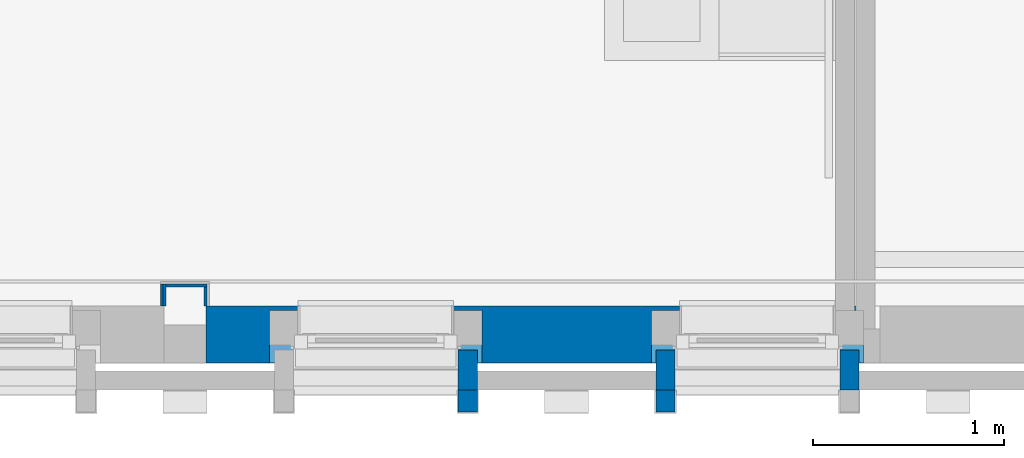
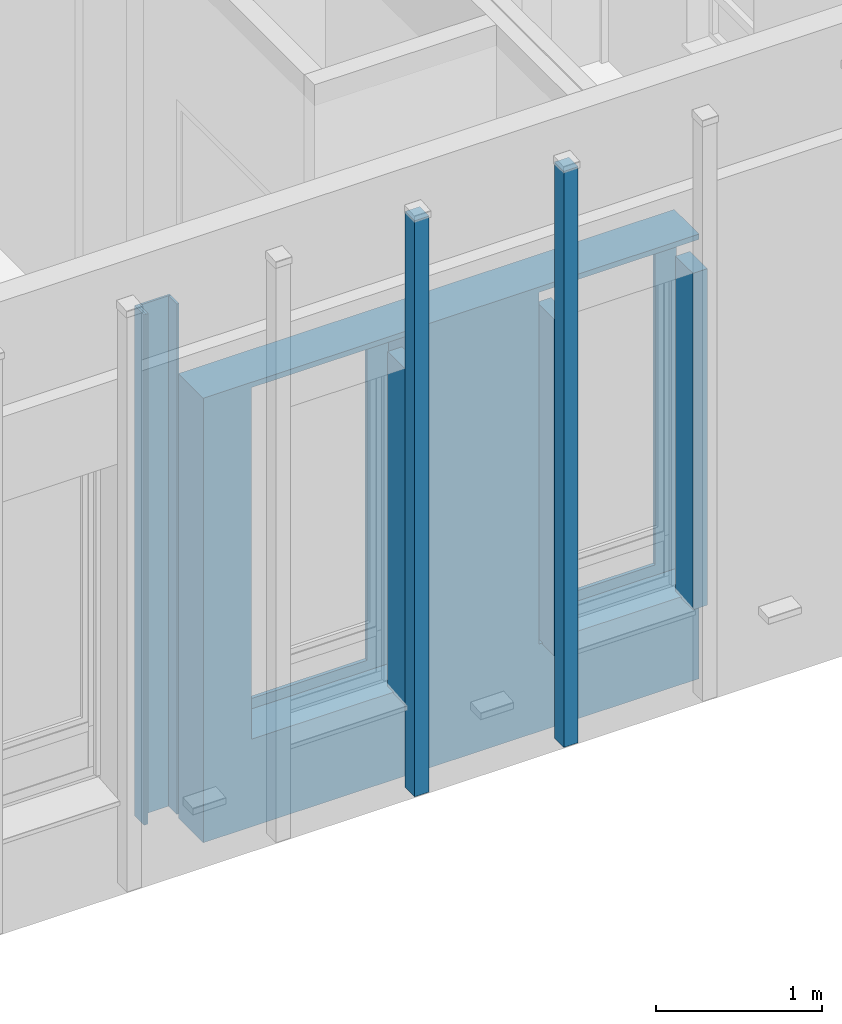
# One storey, part 39 of 118: 10 walls, 12 openings.
"""IFC2X3 building model written with IfcOpenShell, lengths in millimetres."""

from ifc_helpers import new_model, entity, si_unit, converted_unit, derived_unit, direction, frame, frame_2d, origin, place, context, subcontext, project, spatial, rectangle, extrude, faceted_brep, material, layer, layer_set, layer_usage, type_object, element, save


model = new_model("IFC2X3")

# Units and contexts
model_context = context("Model", 3, precision=0.01, world=origin(), true_north=direction((6.123031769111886e-17, 1.0)))
plan_context = context("Plan", 3, precision=0.01, world=origin(), true_north=direction((6.123031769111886e-17, 1.0)))
body_context = subcontext(model_context, "Body", "Model", "MODEL_VIEW")
ifc_project = project(units=[si_unit("LENGTHUNIT", "METRE", prefix="MILLI"), si_unit("AREAUNIT", "SQUARE_METRE"), si_unit("VOLUMEUNIT", "CUBIC_METRE"), converted_unit("PLANEANGLEUNIT", "DEGREE", entity("IfcRatioMeasure", 0.017453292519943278), si_unit("PLANEANGLEUNIT", "RADIAN"), dimensions=[0, 0, 0, 0, 0, 0, 0]), si_unit("MASSUNIT", "GRAM", prefix="KILO"), derived_unit("MASSDENSITYUNIT", [(si_unit("MASSUNIT", "GRAM", prefix="KILO"), 1), (si_unit("LENGTHUNIT", "METRE"), -3)]), derived_unit("IONCONCENTRATIONUNIT", [(si_unit("MASSUNIT", "GRAM", prefix="KILO"), 1), (si_unit("LENGTHUNIT", "METRE"), -3)]), derived_unit("MOMENTOFINERTIAUNIT", [(si_unit("LENGTHUNIT", "METRE"), 4)]), si_unit("TIMEUNIT", "SECOND"), si_unit("FREQUENCYUNIT", "HERTZ"), si_unit("THERMODYNAMICTEMPERATUREUNIT", "DEGREE_CELSIUS"), derived_unit("THERMALTRANSMITTANCEUNIT", [(si_unit("MASSUNIT", "GRAM", prefix="KILO"), 1), (si_unit("THERMODYNAMICTEMPERATUREUNIT", "KELVIN"), -1), (si_unit("TIMEUNIT", "SECOND"), -3)]), derived_unit("THERMALCONDUCTANCEUNIT", [(si_unit("MASSUNIT", "GRAM", prefix="KILO"), 1), (si_unit("THERMODYNAMICTEMPERATUREUNIT", "KELVIN"), -1), (si_unit("TIMEUNIT", "SECOND"), -3), (si_unit("LENGTHUNIT", "METRE"), 1)]), derived_unit("VOLUMETRICFLOWRATEUNIT", [(si_unit("LENGTHUNIT", "METRE"), 3), (si_unit("TIMEUNIT", "SECOND"), -1)]), derived_unit("MASSFLOWRATEUNIT", [(si_unit("MASSUNIT", "GRAM", prefix="KILO"), 1), (si_unit("TIMEUNIT", "SECOND"), -1)]), derived_unit("ROTATIONALFREQUENCYUNIT", [(si_unit("TIMEUNIT", "SECOND"), -1)]), si_unit("ELECTRICCURRENTUNIT", "AMPERE"), si_unit("ELECTRICVOLTAGEUNIT", "VOLT"), si_unit("POWERUNIT", "WATT"), si_unit("FORCEUNIT", "NEWTON", prefix="KILO"), si_unit("ILLUMINANCEUNIT", "LUX"), si_unit("LUMINOUSFLUXUNIT", "LUMEN"), si_unit("LUMINOUSINTENSITYUNIT", "CANDELA"), derived_unit("USERDEFINED", [(si_unit("MASSUNIT", "GRAM", prefix="KILO"), -1), (si_unit("LENGTHUNIT", "METRE"), -2), (si_unit("TIMEUNIT", "SECOND"), 3), (si_unit("LUMINOUSFLUXUNIT", "LUMEN"), 1)]), derived_unit("USERDEFINED", [(si_unit("MASSUNIT", "GRAM", prefix="KILO"), 1), (si_unit("TIMEUNIT", "SECOND"), -3), (si_unit("LENGTHUNIT", "METRE"), 3), (si_unit("ELECTRICCURRENTUNIT", "AMPERE"), -2)]), derived_unit("SOUNDPOWERUNIT", [(si_unit("MASSUNIT", "GRAM", prefix="KILO"), 1), (si_unit("TIMEUNIT", "SECOND"), -3), (si_unit("LENGTHUNIT", "METRE"), 2)]), derived_unit("SOUNDPRESSUREUNIT", [(si_unit("MASSUNIT", "GRAM", prefix="KILO"), 1), (si_unit("LENGTHUNIT", "METRE"), -1), (si_unit("TIMEUNIT", "SECOND"), -2)]), derived_unit("LINEARVELOCITYUNIT", [(si_unit("LENGTHUNIT", "METRE"), 1), (si_unit("TIMEUNIT", "SECOND"), -1)]), si_unit("PRESSUREUNIT", "PASCAL"), derived_unit("USERDEFINED", [(si_unit("MASSUNIT", "GRAM", prefix="KILO"), 1), (si_unit("LENGTHUNIT", "METRE"), -2), (si_unit("TIMEUNIT", "SECOND"), -2)]), derived_unit("LINEARFORCEUNIT", [(si_unit("MASSUNIT", "GRAM", prefix="KILO"), 1), (si_unit("TIMEUNIT", "SECOND"), -2)]), derived_unit("PLANARFORCEUNIT", [(si_unit("MASSUNIT", "GRAM", prefix="KILO"), 1), (si_unit("LENGTHUNIT", "METRE"), -1), (si_unit("TIMEUNIT", "SECOND"), -2)]), derived_unit("SPECIFICHEATCAPACITYUNIT", [(si_unit("THERMODYNAMICTEMPERATUREUNIT", "KELVIN"), -1), (si_unit("LENGTHUNIT", "METRE"), 2), (si_unit("TIMEUNIT", "SECOND"), -2)]), derived_unit("HEATINGVALUEUNIT", [(si_unit("LENGTHUNIT", "METRE"), 2), (si_unit("TIMEUNIT", "SECOND"), -2)]), derived_unit("VAPORPERMEABILITYUNIT", [(si_unit("LENGTHUNIT", "METRE"), -1), (si_unit("TIMEUNIT", "SECOND"), 1)]), derived_unit("DYNAMICVISCOSITYUNIT", [(si_unit("MASSUNIT", "GRAM", prefix="KILO"), 1), (si_unit("TIMEUNIT", "SECOND"), -1), (si_unit("LENGTHUNIT", "METRE"), -1)]), derived_unit("THERMALEXPANSIONCOEFFICIENTUNIT", [(si_unit("THERMODYNAMICTEMPERATUREUNIT", "KELVIN"), -1)]), derived_unit("MODULUSOFELASTICITYUNIT", [(si_unit("MASSUNIT", "GRAM", prefix="KILO"), 1), (si_unit("LENGTHUNIT", "METRE"), -1), (si_unit("TIMEUNIT", "SECOND"), -2)]), derived_unit("ISOTHERMALMOISTURECAPACITYUNIT", [(si_unit("LENGTHUNIT", "METRE"), 3), (si_unit("MASSUNIT", "GRAM", prefix="KILO"), -1)]), derived_unit("MOISTUREDIFFUSIVITYUNIT", [(si_unit("TIMEUNIT", "SECOND"), -1), (si_unit("LENGTHUNIT", "METRE"), 2)])], contexts=[model_context, plan_context])

# Site, building, storey
site_placement = place(None, origin())
site = spatial("IfcSite", under=ifc_project, at=site_placement, Name="Locatie", CompositionType="ELEMENT")
building_placement = place(site_placement, origin())
building = spatial("IfcBuilding", under=site, at=building_placement, Name="Bouwwerk", CompositionType="ELEMENT")
storey_placement = place(building_placement, frame((0.0, 0.0, 7800.0)))
storey = spatial("IfcBuildingStorey", under=building, at=storey_placement, Name="02 tweede verdieping", CompositionType="ELEMENT", Elevation=7800.000000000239)

# Wall, openings
ifc_material_1 = material(Name="n7_isolatie_glaswol")
ifc_layer_1 = layer(ifc_material_1, 30.0)
ifc_layer_2 = layer(ifc_material_1, 245.0)
ifc_material_2 = material(Name="i4_multiplex")
ifc_layer_3 = layer(ifc_material_2, 12.0)
ifc_material_3 = material(Name="f7_gipsvezel")
ifc_layer_4 = layer(ifc_material_3, 13.000000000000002)
ifc_layer_set_1 = layer_set([ifc_layer_1, ifc_layer_2, ifc_layer_3, ifc_layer_4], Name="Basic Wall:NLRS_22_WA_HSB bispouw 30-245-12-13 glaswol_gen_ISR")
ifc_layer_usage_1 = layer_usage(ifc_layer_set_1, "AXIS2", "NEGATIVE", 150.0)
wall_type_1 = type_object("IfcWallType", Name="Basic Wall:NLRS_22_WA_HSB bispouw 30-245-12-13 glaswol_gen_ISR", PredefinedType="STANDARD", material=ifc_layer_set_1)
wall_1_placement = place(storey_placement, frame((31856.0, 9850.0, -30.0), z_axis=(0.0, 0.0, 1.0), x_axis=(-1.0, 0.0, 0.0)))
wall_1 = element("IfcWallStandardCase", 1, at=wall_1_placement, inside=storey, type_object=wall_type_1, material=ifc_layer_usage_1, Name="Basic Wall:NLRS_22_WA_HSB bispouw 30-245-12-13 glaswol_gen_ISR", ObjectType="Basic Wall:NLRS_22_WA_HSB bispouw 30-245-12-13 glaswol_gen_ISR", context=body_context, shape_type="SweptSolid", body=[
    extrude(rectangle(XDim=3445.999999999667, YDim=300.0000000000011, at=frame_2d((1722.9999999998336, 0.0), x_axis=(-1.0, 0.0))), origin(), (0.0, 0.0, 1.0), 3265.9999999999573),
])
opening_1_placement = place(wall_1_placement, frame((-888.0, 290.0, 633.0)))
element("IfcOpeningElement", 2, at=opening_1_placement, cuts=wall_1, Name="Basic Wall:NLRS_22_WA_HSB bispouw 30-245-12-13 glaswol_gen_ISR", ObjectType="Opening", context=body_context, shape_type="Brep", body=[
    faceted_brep([(-24.0, -100.0, 2472.0), (-103.0, -100.0, 2472.0), (-103.0, -100.0, 42.0), (-1009.0, -100.0, 42.0), (-1009.0, -100.0, 2472.0), (-1088.0, -100.0, 2472.0), (-1088.0, -100.0, 0.0), (-24.0, -100.0, 0.0), (-1088.0, 0.0, 2472.0), (-24.0, 0.0, 2472.0), (-24.0, 0.0, 0.0), (-1088.0, 0.0, 0.0), (-1112.0, -415.0, 2594.0), (-1112.0, -415.0, 11.0), (0.0, -415.0, 11.0), (0.0, -415.0, 2594.0), (-964.0, -415.0, 2443.0), (-148.0, -415.0, 2443.0), (-148.0, -415.0, 87.0), (-964.0, -415.0, 87.0), (-1112.0, -140.0, 2594.0), (0.0, -140.0, 2594.0), (0.0, -140.0, 11.0), (-1112.0, -140.0, 11.0), (-1009.0, -140.0, 42.0), (-103.0, -140.0, 42.0), (-103.0, -140.0, 2508.0), (-1009.0, -140.0, 2508.0), (-103.0, -100.0, 2508.0), (-1009.0, -100.0, 2508.0), (-964.0, -615.0, 2443.0), (-964.0, -615.0, 87.0), (-148.0, -615.0, 87.0), (-148.0, -615.0, 2443.0)], [[[0, 1, 2, 3, 4, 5, 6, 7]], [[8, 9, 10, 11]], [[5, 8, 11, 6]], [[6, 11, 10, 7]], [[7, 10, 9, 0]], [[8, 5, 4, 1, 0, 9]], [[12, 13, 14, 15], [16, 17, 18, 19]], [[20, 21, 22, 23], [24, 25, 26, 27]], [[12, 20, 23, 13]], [[13, 23, 22, 14]], [[14, 22, 21, 15]], [[15, 21, 20, 12]], [[28, 1, 4, 29]], [[24, 27, 29, 4, 3]], [[3, 2, 25, 24]], [[2, 1, 28, 26, 25]], [[29, 27, 26, 28]], [[30, 31, 32, 33]], [[30, 16, 19, 31]], [[31, 19, 18, 32]], [[32, 18, 17, 33]], [[33, 17, 16, 30]]]),
])
opening_2_placement = place(wall_1_placement, frame((5112.0, 290.0, 633.0)))
element("IfcOpeningElement", 3, at=opening_2_placement, cuts=wall_1, Name="Basic Wall:NLRS_22_WA_HSB bispouw 30-245-12-13 glaswol_gen_ISR", ObjectType="Opening", context=body_context, shape_type="Brep", body=[
    faceted_brep([(-24.0, -100.0, 2472.0), (-103.0, -100.0, 2472.0), (-103.0, -100.0, 42.0), (-1009.0, -100.0, 42.0), (-1009.0, -100.0, 2472.0), (-1088.0, -100.0, 2472.0), (-1088.0, -100.0, 0.0), (-24.0, -100.0, 0.0), (-1088.0, 0.0, 2472.0), (-24.0, 0.0, 2472.0), (-24.0, 0.0, 0.0), (-1088.0, 0.0, 0.0), (-1112.0, -415.0, 2594.0), (-1112.0, -415.0, 11.0), (0.0, -415.0, 11.0), (0.0, -415.0, 2594.0), (-964.0, -415.0, 2443.0), (-148.0, -415.0, 2443.0), (-148.0, -415.0, 87.0), (-964.0, -415.0, 87.0), (-1112.0, -140.0, 2594.0), (0.0, -140.0, 2594.0), (0.0, -140.0, 11.0), (-1112.0, -140.0, 11.0), (-1009.0, -140.0, 42.0), (-103.0, -140.0, 42.0), (-103.0, -140.0, 2508.0), (-1009.0, -140.0, 2508.0), (-103.0, -100.0, 2508.0), (-1009.0, -100.0, 2508.0), (-964.0, -615.0, 2443.0), (-964.0, -615.0, 87.0), (-148.0, -615.0, 87.0), (-148.0, -615.0, 2443.0)], [[[0, 1, 2, 3, 4, 5, 6, 7]], [[8, 9, 10, 11]], [[5, 8, 11, 6]], [[6, 11, 10, 7]], [[7, 10, 9, 0]], [[8, 5, 4, 1, 0, 9]], [[12, 13, 14, 15], [16, 17, 18, 19]], [[20, 21, 22, 23], [24, 25, 26, 27]], [[12, 20, 23, 13]], [[13, 23, 22, 14]], [[14, 22, 21, 15]], [[15, 21, 20, 12]], [[28, 1, 4, 29]], [[24, 27, 29, 4, 3]], [[3, 2, 25, 24]], [[2, 1, 28, 26, 25]], [[29, 27, 26, 28]], [[30, 31, 32, 33]], [[30, 16, 19, 31]], [[31, 19, 18, 32]], [[32, 18, 17, 33]], [[33, 17, 16, 30]]]),
])
opening_3_placement = place(wall_1_placement, frame((7112.0, 290.0, 633.0)))
element("IfcOpeningElement", 4, at=opening_3_placement, cuts=wall_1, Name="Basic Wall:NLRS_22_WA_HSB bispouw 30-245-12-13 glaswol_gen_ISR", ObjectType="Opening", context=body_context, shape_type="Brep", body=[
    faceted_brep([(-24.0, -100.0, 2472.0), (-103.0, -100.0, 2472.0), (-103.0, -100.0, 42.0), (-1009.0, -100.0, 42.0), (-1009.0, -100.0, 2472.0), (-1088.0, -100.0, 2472.0), (-1088.0, -100.0, 0.0), (-24.0, -100.0, 0.0), (-1088.0, 0.0, 2472.0), (-24.0, 0.0, 2472.0), (-24.0, 0.0, 0.0), (-1088.0, 0.0, 0.0), (-1112.0, -415.0, 2594.0), (-1112.0, -415.0, 11.0), (0.0, -415.0, 11.0), (0.0, -415.0, 2594.0), (-964.0, -415.0, 2443.0), (-148.0, -415.0, 2443.0), (-148.0, -415.0, 87.0), (-964.0, -415.0, 87.0), (-1112.0, -140.0, 2594.0), (0.0, -140.0, 2594.0), (0.0, -140.0, 11.0), (-1112.0, -140.0, 11.0), (-1009.0, -140.0, 42.0), (-103.0, -140.0, 42.0), (-103.0, -140.0, 2508.0), (-1009.0, -140.0, 2508.0), (-103.0, -100.0, 2508.0), (-1009.0, -100.0, 2508.0), (-964.0, -615.0, 2443.0), (-964.0, -615.0, 87.0), (-148.0, -615.0, 87.0), (-148.0, -615.0, 2443.0)], [[[0, 1, 2, 3, 4, 5, 6, 7]], [[8, 9, 10, 11]], [[5, 8, 11, 6]], [[6, 11, 10, 7]], [[7, 10, 9, 0]], [[8, 5, 4, 1, 0, 9]], [[12, 13, 14, 15], [16, 17, 18, 19]], [[20, 21, 22, 23], [24, 25, 26, 27]], [[12, 20, 23, 13]], [[13, 23, 22, 14]], [[14, 22, 21, 15]], [[15, 21, 20, 12]], [[28, 1, 4, 29]], [[24, 27, 29, 4, 3]], [[3, 2, 25, 24]], [[2, 1, 28, 26, 25]], [[29, 27, 26, 28]], [[30, 31, 32, 33]], [[30, 16, 19, 31]], [[31, 19, 18, 32]], [[32, 18, 17, 33]], [[33, 17, 16, 30]]]),
])
opening_4_placement = place(wall_1_placement, frame((11112.0, 290.0, 633.0)))
element("IfcOpeningElement", 5, at=opening_4_placement, cuts=wall_1, Name="Basic Wall:NLRS_22_WA_HSB bispouw 30-245-12-13 glaswol_gen_ISR", ObjectType="Opening", context=body_context, shape_type="Brep", body=[
    faceted_brep([(-24.0, -100.0, 2472.0), (-103.0, -100.0, 2472.0), (-103.0, -100.0, 42.0), (-1009.0, -100.0, 42.0), (-1009.0, -100.0, 2472.0), (-1088.0, -100.0, 2472.0), (-1088.0, -100.0, 0.0), (-24.0, -100.0, 0.0), (-1088.0, 0.0, 2472.0), (-24.0, 0.0, 2472.0), (-24.0, 0.0, 0.0), (-1088.0, 0.0, 0.0), (-1112.0, -415.0, 2594.0), (-1112.0, -415.0, 11.0), (0.0, -415.0, 11.0), (0.0, -415.0, 2594.0), (-964.0, -415.0, 2443.0), (-148.0, -415.0, 2443.0), (-148.0, -415.0, 87.0), (-964.0, -415.0, 87.0), (-1112.0, -140.0, 2594.0), (0.0, -140.0, 2594.0), (0.0, -140.0, 11.0), (-1112.0, -140.0, 11.0), (-1009.0, -140.0, 42.0), (-103.0, -140.0, 42.0), (-103.0, -140.0, 2508.0), (-1009.0, -140.0, 2508.0), (-103.0, -100.0, 2508.0), (-1009.0, -100.0, 2508.0), (-964.0, -615.0, 2443.0), (-964.0, -615.0, 87.0), (-148.0, -615.0, 87.0), (-148.0, -615.0, 2443.0)], [[[0, 1, 2, 3, 4, 5, 6, 7]], [[8, 9, 10, 11]], [[5, 8, 11, 6]], [[6, 11, 10, 7]], [[7, 10, 9, 0]], [[8, 5, 4, 1, 0, 9]], [[12, 13, 14, 15], [16, 17, 18, 19]], [[20, 21, 22, 23], [24, 25, 26, 27]], [[12, 20, 23, 13]], [[13, 23, 22, 14]], [[14, 22, 21, 15]], [[15, 21, 20, 12]], [[28, 1, 4, 29]], [[24, 27, 29, 4, 3]], [[3, 2, 25, 24]], [[2, 1, 28, 26, 25]], [[29, 27, 26, 28]], [[30, 31, 32, 33]], [[30, 16, 19, 31]], [[31, 19, 18, 32]], [[32, 18, 17, 33]], [[33, 17, 16, 30]]]),
])
opening_5_placement = place(wall_1_placement, frame((13112.0, 290.0, 633.0)))
element("IfcOpeningElement", 6, at=opening_5_placement, cuts=wall_1, Name="Basic Wall:NLRS_22_WA_HSB bispouw 30-245-12-13 glaswol_gen_ISR", ObjectType="Opening", context=body_context, shape_type="Brep", body=[
    faceted_brep([(-24.0, -100.0, 2472.0), (-103.0, -100.0, 2472.0), (-103.0, -100.0, 42.0), (-1009.0, -100.0, 42.0), (-1009.0, -100.0, 2472.0), (-1088.0, -100.0, 2472.0), (-1088.0, -100.0, 0.0), (-24.0, -100.0, 0.0), (-1088.0, 0.0, 2472.0), (-24.0, 0.0, 2472.0), (-24.0, 0.0, 0.0), (-1088.0, 0.0, 0.0), (-1112.0, -415.0, 2594.0), (-1112.0, -415.0, 11.0), (0.0, -415.0, 11.0), (0.0, -415.0, 2594.0), (-964.0, -415.0, 2443.0), (-148.0, -415.0, 2443.0), (-148.0, -415.0, 87.0), (-964.0, -415.0, 87.0), (-1112.0, -140.0, 2594.0), (0.0, -140.0, 2594.0), (0.0, -140.0, 11.0), (-1112.0, -140.0, 11.0), (-1009.0, -140.0, 42.0), (-103.0, -140.0, 42.0), (-103.0, -140.0, 2508.0), (-1009.0, -140.0, 2508.0), (-103.0, -100.0, 2508.0), (-1009.0, -100.0, 2508.0), (-964.0, -615.0, 2443.0), (-964.0, -615.0, 87.0), (-148.0, -615.0, 87.0), (-148.0, -615.0, 2443.0)], [[[0, 1, 2, 3, 4, 5, 6, 7]], [[8, 9, 10, 11]], [[5, 8, 11, 6]], [[6, 11, 10, 7]], [[7, 10, 9, 0]], [[8, 5, 4, 1, 0, 9]], [[12, 13, 14, 15], [16, 17, 18, 19]], [[20, 21, 22, 23], [24, 25, 26, 27]], [[12, 20, 23, 13]], [[13, 23, 22, 14]], [[14, 22, 21, 15]], [[15, 21, 20, 12]], [[28, 1, 4, 29]], [[24, 27, 29, 4, 3]], [[3, 2, 25, 24]], [[2, 1, 28, 26, 25]], [[29, 27, 26, 28]], [[30, 31, 32, 33]], [[30, 16, 19, 31]], [[31, 19, 18, 32]], [[32, 18, 17, 33]], [[33, 17, 16, 30]]]),
])
opening_6_placement = place(wall_1_placement, frame((15112.0, 290.0, 633.0)))
element("IfcOpeningElement", 7, at=opening_6_placement, cuts=wall_1, Name="Basic Wall:NLRS_22_WA_HSB bispouw 30-245-12-13 glaswol_gen_ISR", ObjectType="Opening", context=body_context, shape_type="Brep", body=[
    faceted_brep([(-24.0, -100.0, 2472.0), (-103.0, -100.0, 2472.0), (-103.0, -100.0, 42.0), (-1009.0, -100.0, 42.0), (-1009.0, -100.0, 2472.0), (-1088.0, -100.0, 2472.0), (-1088.0, -100.0, 0.0), (-24.0, -100.0, 0.0), (-1088.0, 0.0, 2472.0), (-24.0, 0.0, 2472.0), (-24.0, 0.0, 0.0), (-1088.0, 0.0, 0.0), (-1112.0, -415.0, 2594.0), (-1112.0, -415.0, 11.0), (0.0, -415.0, 11.0), (0.0, -415.0, 2594.0), (-964.0, -415.0, 2443.0), (-148.0, -415.0, 2443.0), (-148.0, -415.0, 87.0), (-964.0, -415.0, 87.0), (-1112.0, -140.0, 2594.0), (0.0, -140.0, 2594.0), (0.0, -140.0, 11.0), (-1112.0, -140.0, 11.0), (-1009.0, -140.0, 42.0), (-103.0, -140.0, 42.0), (-103.0, -140.0, 2508.0), (-1009.0, -140.0, 2508.0), (-103.0, -100.0, 2508.0), (-1009.0, -100.0, 2508.0), (-964.0, -615.0, 2443.0), (-964.0, -615.0, 87.0), (-148.0, -615.0, 87.0), (-148.0, -615.0, 2443.0)], [[[0, 1, 2, 3, 4, 5, 6, 7]], [[8, 9, 10, 11]], [[5, 8, 11, 6]], [[6, 11, 10, 7]], [[7, 10, 9, 0]], [[8, 5, 4, 1, 0, 9]], [[12, 13, 14, 15], [16, 17, 18, 19]], [[20, 21, 22, 23], [24, 25, 26, 27]], [[12, 20, 23, 13]], [[13, 23, 22, 14]], [[14, 22, 21, 15]], [[15, 21, 20, 12]], [[28, 1, 4, 29]], [[24, 27, 29, 4, 3]], [[3, 2, 25, 24]], [[2, 1, 28, 26, 25]], [[29, 27, 26, 28]], [[30, 31, 32, 33]], [[30, 16, 19, 31]], [[31, 19, 18, 32]], [[32, 18, 17, 33]], [[33, 17, 16, 30]]]),
])
opening_7_placement = place(wall_1_placement, frame((17112.0, 290.0, 633.0)))
element("IfcOpeningElement", 8, at=opening_7_placement, cuts=wall_1, Name="Basic Wall:NLRS_22_WA_HSB bispouw 30-245-12-13 glaswol_gen_ISR", ObjectType="Opening", context=body_context, shape_type="Brep", body=[
    faceted_brep([(-24.0, -100.0, 2472.0), (-103.0, -100.0, 2472.0), (-103.0, -100.0, 42.0), (-1009.0, -100.0, 42.0), (-1009.0, -100.0, 2472.0), (-1088.0, -100.0, 2472.0), (-1088.0, -100.0, 0.0), (-24.0, -100.0, 0.0), (-1088.0, 0.0, 2472.0), (-24.0, 0.0, 2472.0), (-24.0, 0.0, 0.0), (-1088.0, 0.0, 0.0), (-1112.0, -415.0, 2594.0), (-1112.0, -415.0, 11.0), (0.0, -415.0, 11.0), (0.0, -415.0, 2594.0), (-964.0, -415.0, 2443.0), (-148.0, -415.0, 2443.0), (-148.0, -415.0, 87.0), (-964.0, -415.0, 87.0), (-1112.0, -140.0, 2594.0), (0.0, -140.0, 2594.0), (0.0, -140.0, 11.0), (-1112.0, -140.0, 11.0), (-1009.0, -140.0, 42.0), (-103.0, -140.0, 42.0), (-103.0, -140.0, 2508.0), (-1009.0, -140.0, 2508.0), (-103.0, -100.0, 2508.0), (-1009.0, -100.0, 2508.0), (-964.0, -615.0, 2443.0), (-964.0, -615.0, 87.0), (-148.0, -615.0, 87.0), (-148.0, -615.0, 2443.0)], [[[0, 1, 2, 3, 4, 5, 6, 7]], [[8, 9, 10, 11]], [[5, 8, 11, 6]], [[6, 11, 10, 7]], [[7, 10, 9, 0]], [[8, 5, 4, 1, 0, 9]], [[12, 13, 14, 15], [16, 17, 18, 19]], [[20, 21, 22, 23], [24, 25, 26, 27]], [[12, 20, 23, 13]], [[13, 23, 22, 14]], [[14, 22, 21, 15]], [[15, 21, 20, 12]], [[28, 1, 4, 29]], [[24, 27, 29, 4, 3]], [[3, 2, 25, 24]], [[2, 1, 28, 26, 25]], [[29, 27, 26, 28]], [[30, 31, 32, 33]], [[30, 16, 19, 31]], [[31, 19, 18, 32]], [[32, 18, 17, 33]], [[33, 17, 16, 30]]]),
])
opening_8_placement = place(wall_1_placement, frame((19112.0, 290.0, 633.0)))
element("IfcOpeningElement", 9, at=opening_8_placement, cuts=wall_1, Name="Basic Wall:NLRS_22_WA_HSB bispouw 30-245-12-13 glaswol_gen_ISR", ObjectType="Opening", context=body_context, shape_type="Brep", body=[
    faceted_brep([(-24.0, -100.0, 2472.0), (-103.0, -100.0, 2472.0), (-103.0, -100.0, 42.0), (-1009.0, -100.0, 42.0), (-1009.0, -100.0, 2472.0), (-1088.0, -100.0, 2472.0), (-1088.0, -100.0, 0.0), (-24.0, -100.0, 0.0), (-1088.0, 0.0, 2472.0), (-24.0, 0.0, 2472.0), (-24.0, 0.0, 0.0), (-1088.0, 0.0, 0.0), (-1112.0, -415.0, 2594.0), (-1112.0, -415.0, 11.0), (0.0, -415.0, 11.0), (0.0, -415.0, 2594.0), (-964.0, -415.0, 2443.0), (-148.0, -415.0, 2443.0), (-148.0, -415.0, 87.0), (-964.0, -415.0, 87.0), (-1112.0, -140.0, 2594.0), (0.0, -140.0, 2594.0), (0.0, -140.0, 11.0), (-1112.0, -140.0, 11.0), (-1009.0, -140.0, 42.0), (-103.0, -140.0, 42.0), (-103.0, -140.0, 2508.0), (-1009.0, -140.0, 2508.0), (-103.0, -100.0, 2508.0), (-1009.0, -100.0, 2508.0), (-964.0, -615.0, 2443.0), (-964.0, -615.0, 87.0), (-148.0, -615.0, 87.0), (-148.0, -615.0, 2443.0)], [[[0, 1, 2, 3, 4, 5, 6, 7]], [[8, 9, 10, 11]], [[5, 8, 11, 6]], [[6, 11, 10, 7]], [[7, 10, 9, 0]], [[8, 5, 4, 1, 0, 9]], [[12, 13, 14, 15], [16, 17, 18, 19]], [[20, 21, 22, 23], [24, 25, 26, 27]], [[12, 20, 23, 13]], [[13, 23, 22, 14]], [[14, 22, 21, 15]], [[15, 21, 20, 12]], [[28, 1, 4, 29]], [[24, 27, 29, 4, 3]], [[3, 2, 25, 24]], [[2, 1, 28, 26, 25]], [[29, 27, 26, 28]], [[30, 31, 32, 33]], [[30, 16, 19, 31]], [[31, 19, 18, 32]], [[32, 18, 17, 33]], [[33, 17, 16, 30]]]),
])
opening_9_placement = place(wall_1_placement, frame((21112.0, 290.0, 633.0)))
element("IfcOpeningElement", 10, at=opening_9_placement, cuts=wall_1, Name="Basic Wall:NLRS_22_WA_HSB bispouw 30-245-12-13 glaswol_gen_ISR", ObjectType="Opening", context=body_context, shape_type="Brep", body=[
    faceted_brep([(-24.0, -100.0, 2472.0), (-103.0, -100.0, 2472.0), (-103.0, -100.0, 42.0), (-1009.0, -100.0, 42.0), (-1009.0, -100.0, 2472.0), (-1088.0, -100.0, 2472.0), (-1088.0, -100.0, 0.0), (-24.0, -100.0, 0.0), (-1088.0, 0.0, 2472.0), (-24.0, 0.0, 2472.0), (-24.0, 0.0, 0.0), (-1088.0, 0.0, 0.0), (-1112.0, -415.0, 2594.0), (-1112.0, -415.0, 11.0), (0.0, -415.0, 11.0), (0.0, -415.0, 2594.0), (-964.0, -415.0, 2443.0), (-148.0, -415.0, 2443.0), (-148.0, -415.0, 87.0), (-964.0, -415.0, 87.0), (-1112.0, -140.0, 2594.0), (0.0, -140.0, 2594.0), (0.0, -140.0, 11.0), (-1112.0, -140.0, 11.0), (-1009.0, -140.0, 42.0), (-103.0, -140.0, 42.0), (-103.0, -140.0, 2508.0), (-1009.0, -140.0, 2508.0), (-103.0, -100.0, 2508.0), (-1009.0, -100.0, 2508.0), (-964.0, -615.0, 2443.0), (-964.0, -615.0, 87.0), (-148.0, -615.0, 87.0), (-148.0, -615.0, 2443.0)], [[[0, 1, 2, 3, 4, 5, 6, 7]], [[8, 9, 10, 11]], [[5, 8, 11, 6]], [[6, 11, 10, 7]], [[7, 10, 9, 0]], [[8, 5, 4, 1, 0, 9]], [[12, 13, 14, 15], [16, 17, 18, 19]], [[20, 21, 22, 23], [24, 25, 26, 27]], [[12, 20, 23, 13]], [[13, 23, 22, 14]], [[14, 22, 21, 15]], [[15, 21, 20, 12]], [[28, 1, 4, 29]], [[24, 27, 29, 4, 3]], [[3, 2, 25, 24]], [[2, 1, 28, 26, 25]], [[29, 27, 26, 28]], [[30, 31, 32, 33]], [[30, 16, 19, 31]], [[31, 19, 18, 32]], [[32, 18, 17, 33]], [[33, 17, 16, 30]]]),
])
opening_10_placement = place(wall_1_placement, frame((9112.0, 290.0, 633.0)))
element("IfcOpeningElement", 11, at=opening_10_placement, cuts=wall_1, Name="Basic Wall:NLRS_22_WA_HSB bispouw 30-245-12-13 glaswol_gen_ISR", ObjectType="Opening", context=body_context, shape_type="Brep", body=[
    faceted_brep([(-24.0, -100.0, 2472.0), (-103.0, -100.0, 2472.0), (-103.0, -100.0, 42.0), (-1009.0, -100.0, 42.0), (-1009.0, -100.0, 2472.0), (-1088.0, -100.0, 2472.0), (-1088.0, -100.0, 0.0), (-24.0, -100.0, 0.0), (-1088.0, 0.0, 2472.0), (-24.0, 0.0, 2472.0), (-24.0, 0.0, 0.0), (-1088.0, 0.0, 0.0), (-1112.0, -415.0, 2594.0), (-1112.0, -415.0, 11.0), (0.0, -415.0, 11.0), (0.0, -415.0, 2594.0), (-964.0, -415.0, 2443.0), (-148.0, -415.0, 2443.0), (-148.0, -415.0, 87.0), (-964.0, -415.0, 87.0), (-1112.0, -140.0, 2594.0), (0.0, -140.0, 2594.0), (0.0, -140.0, 11.0), (-1112.0, -140.0, 11.0), (-1009.0, -140.0, 42.0), (-103.0, -140.0, 42.0), (-103.0, -140.0, 2508.0), (-1009.0, -140.0, 2508.0), (-103.0, -100.0, 2508.0), (-1009.0, -100.0, 2508.0), (-964.0, -615.0, 2443.0), (-964.0, -615.0, 87.0), (-148.0, -615.0, 87.0), (-148.0, -615.0, 2443.0)], [[[0, 1, 2, 3, 4, 5, 6, 7]], [[8, 9, 10, 11]], [[5, 8, 11, 6]], [[6, 11, 10, 7]], [[7, 10, 9, 0]], [[8, 5, 4, 1, 0, 9]], [[12, 13, 14, 15], [16, 17, 18, 19]], [[20, 21, 22, 23], [24, 25, 26, 27]], [[12, 20, 23, 13]], [[13, 23, 22, 14]], [[14, 22, 21, 15]], [[15, 21, 20, 12]], [[28, 1, 4, 29]], [[24, 27, 29, 4, 3]], [[3, 2, 25, 24]], [[2, 1, 28, 26, 25]], [[29, 27, 26, 28]], [[30, 31, 32, 33]], [[30, 16, 19, 31]], [[31, 19, 18, 32]], [[32, 18, 17, 33]], [[33, 17, 16, 30]]]),
])
opening_11_placement = place(wall_1_placement, frame((1112.0, 290.0, 633.0), z_axis=(0.0, 0.0, 1.0), x_axis=(-1.0, 0.0, 0.0)))
element("IfcOpeningElement", 12, at=opening_11_placement, cuts=wall_1, Name="Basic Wall:NLRS_22_WA_HSB bispouw 30-245-12-13 glaswol_gen_ISR", ObjectType="Opening", context=body_context, shape_type="Brep", body=[
    faceted_brep([(24.0, 100.0, 2472.0), (103.0, 100.0, 2472.0), (103.0, 100.0, 42.0), (1009.0, 100.0, 42.0), (1009.0, 100.0, 2472.0), (1088.0, 100.0, 2472.0), (1088.0, 100.0, 0.0), (24.0, 100.0, 0.0), (1088.0, 0.0, 2472.0), (24.0, 0.0, 2472.0), (24.0, 0.0, 0.0), (1088.0, 0.0, 0.0), (1112.0, 415.0, 2594.0), (1112.0, 415.0, 11.0), (0.0, 415.0, 11.0), (0.0, 415.0, 2594.0), (964.0, 415.0, 2443.0), (148.0, 415.0, 2443.0), (148.0, 415.0, 87.0), (964.0, 415.0, 87.0), (1112.0, 140.0, 2594.0), (0.0, 140.0, 2594.0), (0.0, 140.0, 11.0), (1112.0, 140.0, 11.0), (1009.0, 140.0, 42.0), (103.0, 140.0, 42.0), (103.0, 140.0, 2508.0), (1009.0, 140.0, 2508.0), (103.0, 100.0, 2508.0), (1009.0, 100.0, 2508.0), (964.0, 615.0, 2443.0), (964.0, 615.0, 87.0), (148.0, 615.0, 87.0), (148.0, 615.0, 2443.0)], [[[0, 1, 2, 3, 4, 5, 6, 7]], [[8, 9, 10, 11]], [[5, 8, 11, 6]], [[6, 11, 10, 7]], [[7, 10, 9, 0]], [[8, 5, 4, 1, 0, 9]], [[12, 13, 14, 15], [16, 17, 18, 19]], [[20, 21, 22, 23], [24, 25, 26, 27]], [[12, 20, 23, 13]], [[13, 23, 22, 14]], [[14, 22, 21, 15]], [[15, 21, 20, 12]], [[28, 1, 4, 29]], [[24, 27, 29, 4, 3]], [[3, 2, 25, 24]], [[2, 1, 28, 26, 25]], [[29, 27, 26, 28]], [[30, 31, 32, 33]], [[30, 16, 19, 31]], [[31, 19, 18, 32]], [[32, 18, 17, 33]], [[33, 17, 16, 30]]]),
])
opening_12_placement = place(wall_1_placement, frame((3112.0, 290.0, 633.0), z_axis=(0.0, 0.0, 1.0), x_axis=(-1.0, 0.0, 0.0)))
element("IfcOpeningElement", 13, at=opening_12_placement, cuts=wall_1, Name="Basic Wall:NLRS_22_WA_HSB bispouw 30-245-12-13 glaswol_gen_ISR", ObjectType="Opening", context=body_context, shape_type="Brep", body=[
    faceted_brep([(24.0, 100.0, 2472.0), (103.0, 100.0, 2472.0), (103.0, 100.0, 42.0), (1009.0, 100.0, 42.0), (1009.0, 100.0, 2472.0), (1088.0, 100.0, 2472.0), (1088.0, 100.0, 0.0), (24.0, 100.0, 0.0), (1088.0, 0.0, 2472.0), (24.0, 0.0, 2472.0), (24.0, 0.0, 0.0), (1088.0, 0.0, 0.0), (1112.0, 415.0, 2594.0), (1112.0, 415.0, 11.0), (0.0, 415.0, 11.0), (0.0, 415.0, 2594.0), (964.0, 415.0, 2443.0), (148.0, 415.0, 2443.0), (148.0, 415.0, 87.0), (964.0, 415.0, 87.0), (1112.0, 140.0, 2594.0), (0.0, 140.0, 2594.0), (0.0, 140.0, 11.0), (1112.0, 140.0, 11.0), (1009.0, 140.0, 42.0), (103.0, 140.0, 42.0), (103.0, 140.0, 2508.0), (1009.0, 140.0, 2508.0), (103.0, 100.0, 2508.0), (1009.0, 100.0, 2508.0), (964.0, 615.0, 2443.0), (964.0, 615.0, 87.0), (148.0, 615.0, 87.0), (148.0, 615.0, 2443.0)], [[[0, 1, 2, 3, 4, 5, 6, 7]], [[8, 9, 10, 11]], [[5, 8, 11, 6]], [[6, 11, 10, 7]], [[7, 10, 9, 0]], [[8, 5, 4, 1, 0, 9]], [[12, 13, 14, 15], [16, 17, 18, 19]], [[20, 21, 22, 23], [24, 25, 26, 27]], [[12, 20, 23, 13]], [[13, 23, 22, 14]], [[14, 22, 21, 15]], [[15, 21, 20, 12]], [[28, 1, 4, 29]], [[24, 27, 29, 4, 3]], [[3, 2, 25, 24]], [[2, 1, 28, 26, 25]], [[29, 27, 26, 28]], [[30, 31, 32, 33]], [[30, 16, 19, 31]], [[31, 19, 18, 32]], [[32, 18, 17, 33]], [[33, 17, 16, 30]]]),
])

# Walls
ifc_material_4 = material(Name="g2_metselwerk_geel licht")
ifc_layer_5 = layer(ifc_material_4, 100.0)
ifc_layer_set_2 = layer_set([ifc_layer_5], Name="Basic Wall:21_WA_metselwerk_licht_100_gen_bdg")
ifc_layer_usage_2 = layer_usage(ifc_layer_set_2, "AXIS2", "NEGATIVE", 50.0)
wall_type_2 = type_object("IfcWallType", Name="Basic Wall:21_WA_metselwerk_licht_100_gen_bdg", PredefinedType="STANDARD", material=ifc_layer_set_2)
wall_2_placement = place(storey_placement, frame((30818.0, 9770.0, 603.0), z_axis=(0.0, 0.0, 1.0), x_axis=(0.0, -1.0, 0.0)))
element("IfcWallStandardCase", 14, at=wall_2_placement, inside=storey, type_object=wall_type_2, material=ifc_layer_usage_2, Name="Basic Wall:21_WA_metselwerk_licht_100_gen_bdg", ObjectType="Basic Wall:21_WA_metselwerk_licht_100_gen_bdg", context=body_context, shape_type="SweptSolid", body=[
    extrude(rectangle(XDim=210.00000000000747, YDim=100.00000000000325, at=frame_2d((105.00000000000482, -1.7053025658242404e-13), x_axis=(-1.0, 0.0))), origin(), (0.0, 0.0, 1.0), 2471.999999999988),
])
wall_3_placement = place(storey_placement, frame((30818.0, 9560.0, 0.0), z_axis=(0.0, 0.0, 1.0), x_axis=(0.0, -1.0, 0.0)))
element("IfcWallStandardCase", 15, at=wall_3_placement, inside=storey, type_object=wall_type_2, material=ifc_layer_usage_2, Name="Basic Wall:21_WA_metselwerk_licht_100_gen_bdg", ObjectType="Basic Wall:21_WA_metselwerk_licht_100_gen_bdg", context=body_context, shape_type="SweptSolid", body=[
    extrude(rectangle(XDim=115.00000000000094, YDim=100.00000000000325, at=frame_2d((57.50000000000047, 3.730349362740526e-13), x_axis=(-1.0, 0.0))), origin(), (0.0, 0.0, 1.0), 4232.000000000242),
])
ifc_layer_usage_3 = layer_usage(ifc_layer_set_2, "AXIS2", "POSITIVE", -50.0)
for number, where, z_axis, x_axis, name in (
    (16, (31782.0, 9770.0, 603.0), (0.0, 0.0, 1.0), (0.0, -1.0, 0.0), "Basic Wall:21_WA_metselwerk_licht_100_gen_bdg"),
    (17, (29782.0, 9770.0, 603.0), (0.0, 0.0, 1.0), (0.0, -1.0, 0.0), "Basic Wall:21_WA_metselwerk_licht_100_gen_bdg"),
):
    element("IfcWallStandardCase", number, at=place(storey_placement, frame(where, z_axis=z_axis, x_axis=x_axis)), inside=storey, type_object=wall_type_2, material=ifc_layer_usage_3, Name=name, ObjectType="Basic Wall:21_WA_metselwerk_licht_100_gen_bdg", context=body_context, shape_type="SweptSolid", body=[
        extrude(rectangle(XDim=210.00000000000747, YDim=100.00000000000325, at=frame_2d((105.00000000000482, 1.3145040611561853e-12), x_axis=(-1.0, 0.0))), origin(), (0.0, 0.0, 1.0), 2471.999999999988),
    ])
wall_4_placement = place(storey_placement, frame((29782.0, 9560.0, 0.0), z_axis=(0.0, 0.0, 1.0), x_axis=(0.0, -1.0, 0.0)))
element("IfcWallStandardCase", 18, at=wall_4_placement, inside=storey, type_object=wall_type_2, material=ifc_layer_usage_3, Name="Basic Wall:21_WA_metselwerk_licht_100_gen_bdg", ObjectType="Basic Wall:21_WA_metselwerk_licht_100_gen_bdg", context=body_context, shape_type="SweptSolid", body=[
    extrude(rectangle(XDim=115.00000000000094, YDim=100.00000000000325, at=frame_2d((57.50000000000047, 3.730349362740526e-13), x_axis=(-1.0, 0.0))), origin(), (0.0, 0.0, 1.0), 4231.99999999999),
])
ifc_layer_6 = layer(ifc_material_3, 13.000000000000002)
ifc_layer_set_3 = layer_set([ifc_layer_6], Name="Basic Wall:NLRS_41_WA_gips 13_gen_ISR")
ifc_layer_usage_4 = layer_usage(ifc_layer_set_3, "AXIS2", "POSITIVE", -6.500000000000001)
wall_type_3 = type_object("IfcWallType", Name="Basic Wall:NLRS_41_WA_gips 13_gen_ISR", PredefinedType="STANDARD", material=ifc_layer_set_3)
wall_5_placement = place(storey_placement, frame((28178.499999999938, 10115.0, 0.0), z_axis=(0.0, 0.0, 1.0), x_axis=(0.0, -1.0, 0.0)))
element("IfcWallStandardCase", 19, at=wall_5_placement, inside=storey, type_object=wall_type_3, material=ifc_layer_usage_4, Name="Basic Wall:NLRS_41_WA_gips 13_gen_ISR", ObjectType="Basic Wall:NLRS_41_WA_gips 13_gen_ISR", context=body_context, shape_type="SweptSolid", body=[
    extrude(rectangle(XDim=115.00000000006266, YDim=12.999999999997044, at=frame_2d((57.50000000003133, 0.0), x_axis=(-1.0, 0.0))), origin(), (0.0, 0.0, 1.0), 3750.000000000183),
])
ifc_material_5 = material(Name="ISR_brandwerende beplating")
ifc_layer_7 = layer(ifc_material_5, 15.0)
ifc_layer_set_4 = layer_set([ifc_layer_7], Name="Basic Wall:NLRS_41_WA_brandwerende beplating 15_gen_ISR")
ifc_layer_usage_5 = layer_usage(ifc_layer_set_4, "AXIS2", "NEGATIVE", 7.5)
wall_type_4 = type_object("IfcWallType", Name="Basic Wall:NLRS_41_WA_brandwerende beplating 15_gen_ISR", PredefinedType="STANDARD", material=ifc_layer_set_4)
wall_6_placement = place(storey_placement, frame((28192.49999999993, 10000.0, 0.0), z_axis=(0.0, 0.0, 1.0), x_axis=(0.0, 1.0, 0.0)))
element("IfcWallStandardCase", 20, at=wall_6_placement, inside=storey, type_object=wall_type_4, material=ifc_layer_usage_5, Name="Basic Wall:NLRS_41_WA_brandwerende beplating 15_gen_ISR", ObjectType="Basic Wall:NLRS_41_WA_brandwerende beplating 15_gen_ISR", context=body_context, shape_type="SweptSolid", body=[
    extrude(rectangle(XDim=114.99999999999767, YDim=14.99999999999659, at=frame_2d((57.499999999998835, 3.3928415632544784e-13), x_axis=(-1.0, 0.0))), origin(), (0.0, 0.0, 1.0), 3750.000000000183),
])
wall_7_placement = place(storey_placement, frame((28200.0, 10107.50000000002, 0.0)))
element("IfcWallStandardCase", 21, at=wall_7_placement, inside=storey, type_object=wall_type_4, material=ifc_layer_usage_5, Name="Basic Wall:NLRS_41_WA_brandwerende beplating 15_gen_ISR", ObjectType="Basic Wall:NLRS_41_WA_brandwerende beplating 15_gen_ISR", context=body_context, shape_type="SweptSolid", body=[
    extrude(rectangle(XDim=214.99999999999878, YDim=15.000000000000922, at=frame_2d((107.49999999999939, -4.489741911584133e-13), x_axis=(-1.0, 0.0))), origin(), (0.0, 0.0, 1.0), 3750.000000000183),
])
wall_8_placement = place(storey_placement, frame((28407.499999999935, 10100.0, 0.0), z_axis=(0.0, 0.0, 1.0), x_axis=(0.0, -1.0, 0.0)))
element("IfcWallStandardCase", 22, at=wall_8_placement, inside=storey, type_object=wall_type_4, material=ifc_layer_usage_5, Name="Basic Wall:NLRS_41_WA_brandwerende beplating 15_gen_ISR", ObjectType="Basic Wall:NLRS_41_WA_brandwerende beplating 15_gen_ISR", context=body_context, shape_type="SweptSolid", body=[
    extrude(rectangle(XDim=99.99999999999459, YDim=14.99999999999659, at=frame_2d((49.99999999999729, 2.9531932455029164e-13), x_axis=(-1.0, 0.0))), origin(), (0.0, 0.0, 1.0), 3750.000000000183),
])

save(model, "model.ifc")
